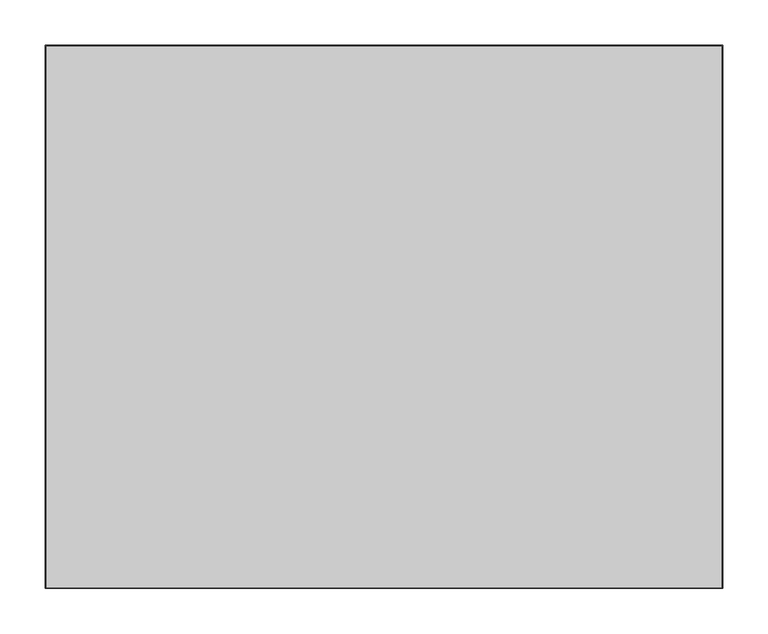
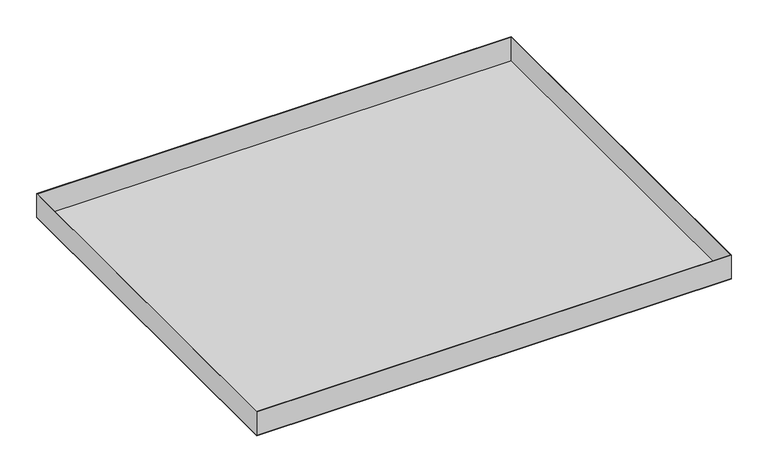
"""IFC4 building model written with IfcOpenShell, lengths in millimetres: proxy geometry, durlum_S5-100_RHOMBOS_panel : durlum_S5-100_RHOMBOS_panel_wall_length_cut."""

from ifc_helpers import new_model, si_unit, frame, origin, origin_with_axes, place, context, project, spatial, polyline, outline, extrude, source, transform, mapped, element, save


def generic_models_d3878264(model_context):
    return source(origin(), model_context, "Body", "SweptSolid", [
        extrude(outline(polyline([(373.5, 299.75), (373.5, -299.75), (-373.5, -299.75), (-373.5, 299.75), (373.5, 299.75)]), holes=[polyline([(372.5, 298.75), (-372.5, 298.75), (-372.5, -298.75), (372.5, -298.75), (372.5, 298.75)])]), frame((0.0, 0.0, 1.0), z_axis=(0.0, 0.0, 1.0), x_axis=(1.0, 0.0, 0.0)), (0.0, 0.0, 1.0), 39.0),
        extrude(outline(polyline([(373.5, 299.75), (373.5, -299.75), (-373.5, -299.75), (-373.5, 299.75), (373.5, 299.75)])), origin_with_axes(), (0.0, 0.0, 1.0), 1.0),
    ])


if __name__ == "__main__":
    model = new_model("IFC4")
    model_context = context("Model", 3, world=origin())
    ifc_project = project(units=[si_unit("LENGTHUNIT", "METRE", prefix="MILLI")], contexts=[model_context])
    site = spatial("IfcSite", under=ifc_project)
    building = spatial("IfcBuilding", under=site)
    placement = place(None, origin())
    generic_models_shape = generic_models_d3878264(model_context)
    element("IfcBuildingElementProxy", 1, Name="durlum_S5-100_RHOMBOS_panel : durlum_S5-100_RHOMBOS_panel_wall_length_cut", ObjectType="durlum_S5-100_RHOMBOS_panel : durlum_S5-100_RHOMBOS_panel_wall_length_cut", at=placement, inside=building, context=model_context, shape_type="MappedRepresentation", body=[
        mapped(generic_models_shape, transform((0.0, 0.0, 0.0), x_axis=(1.0, 0.0, 0.0), y_axis=(0.0, 1.0, 0.0), z_axis=(0.0, 0.0, 1.0))),
    ])
    save(model, "model.ifc")
